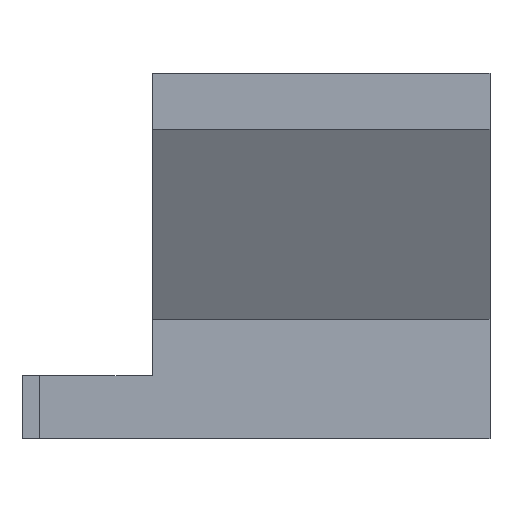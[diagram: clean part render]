
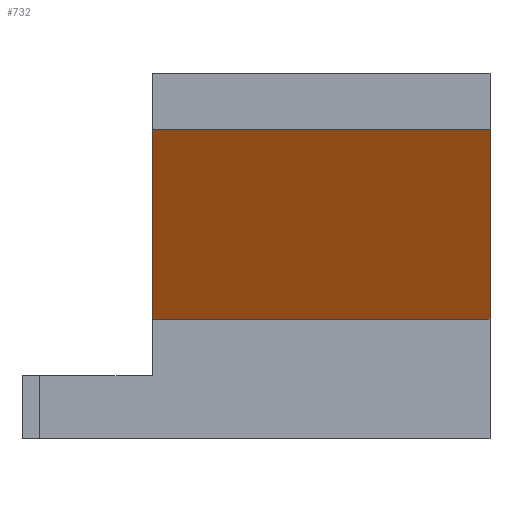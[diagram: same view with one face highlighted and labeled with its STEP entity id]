
A CAD part, front view. The second image highlights one B-rep face of the part: STEP entity #732.
In plain terms, the highlighted planar face has unit normal (0, -0.195, -0.981).
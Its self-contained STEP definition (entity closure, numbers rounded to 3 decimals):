
#72 = PLANE('',#73);
#73 = AXIS2_PLACEMENT_3D('',#74,#75,#76);
#74 = CARTESIAN_POINT('',(-65.4,7.015,76.405));
#75 = DIRECTION('',(-1.,-0.,-0.));
#76 = DIRECTION('',(0.,0.,-1.));
#126 = PLANE('',#127);
#127 = AXIS2_PLACEMENT_3D('',#128,#129,#130);
#128 = CARTESIAN_POINT('',(-70.2,7.015,76.405));
#129 = DIRECTION('',(-1.,-0.,-0.));
#130 = DIRECTION('',(0.,0.,-1.));
#159 = PLANE('',#160);
#160 = AXIS2_PLACEMENT_3D('',#161,#162,#163);
#161 = CARTESIAN_POINT('',(-70.2,1.2,77.2));
#162 = DIRECTION('',(0.,0.,-1.));
#163 = DIRECTION('',(0.,-1.,0.));
#217 = EDGE_CURVE('',#218,#220,#222,.T.);
#218 = VERTEX_POINT('',#219);
#219 = CARTESIAN_POINT('',(-65.4,14.8,74.5));
#220 = VERTEX_POINT('',#221);
#221 = CARTESIAN_POINT('',(-65.4,1.2,77.2));
#222 = SURFACE_CURVE('',#223,(#227,#234),.PCURVE_S1.);
#223 = LINE('',#224,#225);
#224 = CARTESIAN_POINT('',(-65.4,14.8,74.5));
#225 = VECTOR('',#226,1.);
#226 = DIRECTION('',(0.,-0.981,0.195));
#227 = PCURVE('',#72,#228);
#228 = DEFINITIONAL_REPRESENTATION('',(#229),#233);
#229 = LINE('',#230,#231);
#230 = CARTESIAN_POINT('',(1.905,-7.785));
#231 = VECTOR('',#232,1.);
#232 = DIRECTION('',(-0.195,0.981));
#233 = ( GEOMETRIC_REPRESENTATION_CONTEXT(2) 
PARAMETRIC_REPRESENTATION_CONTEXT() REPRESENTATION_CONTEXT('2D SPACE',''
  ) );
#234 = PCURVE('',#235,#240);
#235 = PLANE('',#236);
#236 = AXIS2_PLACEMENT_3D('',#237,#238,#239);
#237 = CARTESIAN_POINT('',(-70.2,14.8,74.5));
#238 = DIRECTION('',(0.,-0.195,-0.981));
#239 = DIRECTION('',(0.,-0.981,0.195));
#240 = DEFINITIONAL_REPRESENTATION('',(#241),#245);
#241 = LINE('',#242,#243);
#242 = CARTESIAN_POINT('',(0.,-4.8));
#243 = VECTOR('',#244,1.);
#244 = DIRECTION('',(1.,0.));
#245 = ( GEOMETRIC_REPRESENTATION_CONTEXT(2) 
PARAMETRIC_REPRESENTATION_CONTEXT() REPRESENTATION_CONTEXT('2D SPACE',''
  ) );
#475 = PLANE('',#476);
#476 = AXIS2_PLACEMENT_3D('',#477,#478,#479);
#477 = CARTESIAN_POINT('',(-70.2,15.2,74.5));
#478 = DIRECTION('',(0.,0.,-1.));
#479 = DIRECTION('',(0.,-1.,0.));
#639 = VERTEX_POINT('',#640);
#640 = CARTESIAN_POINT('',(-70.2,14.8,74.5));
#661 = EDGE_CURVE('',#662,#639,#664,.T.);
#662 = VERTEX_POINT('',#663);
#663 = CARTESIAN_POINT('',(-70.2,1.2,77.2));
#664 = SURFACE_CURVE('',#665,(#669,#676),.PCURVE_S1.);
#665 = LINE('',#666,#667);
#666 = CARTESIAN_POINT('',(-70.2,1.2,77.2));
#667 = VECTOR('',#668,1.);
#668 = DIRECTION('',(0.,0.981,-0.195));
#669 = PCURVE('',#126,#670);
#670 = DEFINITIONAL_REPRESENTATION('',(#671),#675);
#671 = LINE('',#672,#673);
#672 = CARTESIAN_POINT('',(-0.795,5.815));
#673 = VECTOR('',#674,1.);
#674 = DIRECTION('',(0.195,-0.981));
#675 = ( GEOMETRIC_REPRESENTATION_CONTEXT(2) 
PARAMETRIC_REPRESENTATION_CONTEXT() REPRESENTATION_CONTEXT('2D SPACE',''
  ) );
#676 = PCURVE('',#235,#677);
#677 = DEFINITIONAL_REPRESENTATION('',(#678),#682);
#678 = LINE('',#679,#680);
#679 = CARTESIAN_POINT('',(13.865,0.));
#680 = VECTOR('',#681,1.);
#681 = DIRECTION('',(-1.,-0.));
#682 = ( GEOMETRIC_REPRESENTATION_CONTEXT(2) 
PARAMETRIC_REPRESENTATION_CONTEXT() REPRESENTATION_CONTEXT('2D SPACE',''
  ) );
#709 = EDGE_CURVE('',#662,#220,#710,.T.);
#710 = SURFACE_CURVE('',#711,(#715,#722),.PCURVE_S1.);
#711 = LINE('',#712,#713);
#712 = CARTESIAN_POINT('',(-70.2,1.2,77.2));
#713 = VECTOR('',#714,1.);
#714 = DIRECTION('',(1.,0.,0.));
#715 = PCURVE('',#159,#716);
#716 = DEFINITIONAL_REPRESENTATION('',(#717),#721);
#717 = LINE('',#718,#719);
#718 = CARTESIAN_POINT('',(0.,-0.));
#719 = VECTOR('',#720,1.);
#720 = DIRECTION('',(0.,-1.));
#721 = ( GEOMETRIC_REPRESENTATION_CONTEXT(2) 
PARAMETRIC_REPRESENTATION_CONTEXT() REPRESENTATION_CONTEXT('2D SPACE',''
  ) );
#722 = PCURVE('',#235,#723);
#723 = DEFINITIONAL_REPRESENTATION('',(#724),#728);
#724 = LINE('',#725,#726);
#725 = CARTESIAN_POINT('',(13.865,0.));
#726 = VECTOR('',#727,1.);
#727 = DIRECTION('',(0.,-1.));
#728 = ( GEOMETRIC_REPRESENTATION_CONTEXT(2) 
PARAMETRIC_REPRESENTATION_CONTEXT() REPRESENTATION_CONTEXT('2D SPACE',''
  ) );
#732 = ADVANCED_FACE('',(#733),#235,.T.);
#733 = FACE_BOUND('',#734,.T.);
#734 = EDGE_LOOP('',(#735,#756,#757,#758));
#735 = ORIENTED_EDGE('',*,*,#736,.T.);
#736 = EDGE_CURVE('',#639,#218,#737,.T.);
#737 = SURFACE_CURVE('',#738,(#742,#749),.PCURVE_S1.);
#738 = LINE('',#739,#740);
#739 = CARTESIAN_POINT('',(-70.2,14.8,74.5));
#740 = VECTOR('',#741,1.);
#741 = DIRECTION('',(1.,0.,0.));
#742 = PCURVE('',#235,#743);
#743 = DEFINITIONAL_REPRESENTATION('',(#744),#748);
#744 = LINE('',#745,#746);
#745 = CARTESIAN_POINT('',(0.,0.));
#746 = VECTOR('',#747,1.);
#747 = DIRECTION('',(0.,-1.));
#748 = ( GEOMETRIC_REPRESENTATION_CONTEXT(2) 
PARAMETRIC_REPRESENTATION_CONTEXT() REPRESENTATION_CONTEXT('2D SPACE',''
  ) );
#749 = PCURVE('',#475,#750);
#750 = DEFINITIONAL_REPRESENTATION('',(#751),#755);
#751 = LINE('',#752,#753);
#752 = CARTESIAN_POINT('',(0.4,0.));
#753 = VECTOR('',#754,1.);
#754 = DIRECTION('',(0.,-1.));
#755 = ( GEOMETRIC_REPRESENTATION_CONTEXT(2) 
PARAMETRIC_REPRESENTATION_CONTEXT() REPRESENTATION_CONTEXT('2D SPACE',''
  ) );
#756 = ORIENTED_EDGE('',*,*,#217,.T.);
#757 = ORIENTED_EDGE('',*,*,#709,.F.);
#758 = ORIENTED_EDGE('',*,*,#661,.T.);
